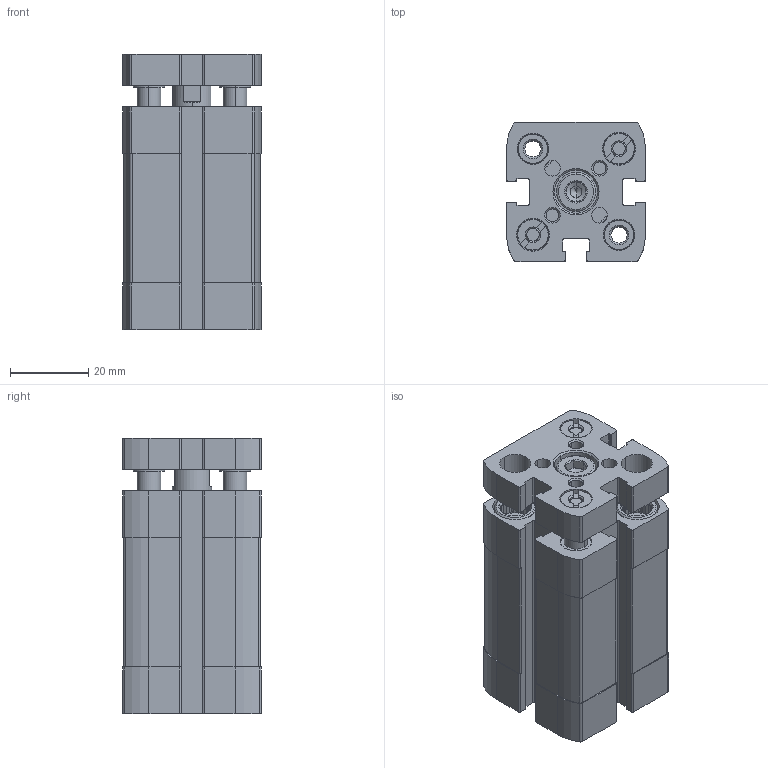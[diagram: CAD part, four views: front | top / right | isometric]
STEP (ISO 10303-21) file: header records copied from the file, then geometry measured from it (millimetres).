
FILE_DESCRIPTION (( 'STEP AP203' ), '1' );
FILE_NAME ('CCNG20-20.STEP', '2018-08-03T19:16:04', ( '' ), ( '' ), 'SwSTEP 2.0', 'SolidWorks 2018', '' );
FILE_SCHEMA (( 'CONFIG_CONTROL_DESIGN' ));
Length unit declared in the file: millimetre
Products named in the file (1): CCNG20-20
Bounding box: 35.5 x 35.5 x 70.5 mm (x, y, z)
Volume: 62489.8 mm3; surface area: 29961.7 mm2
Topology: 2 solids, 6 shells, 602 faces, 1579 edges, 1025 vertices
Faces by surface type: plane 301, cylinder 214, cone 77, torus 10
Entity records: 19017 total; most frequent: CARTESIAN_POINT 3721, DIRECTION 3287, ORIENTED_EDGE 3154, EDGE_CURVE 1577, AXIS2_PLACEMENT_3D 1238, VERTEX_POINT 1025, VECTOR 811, LINE 811
